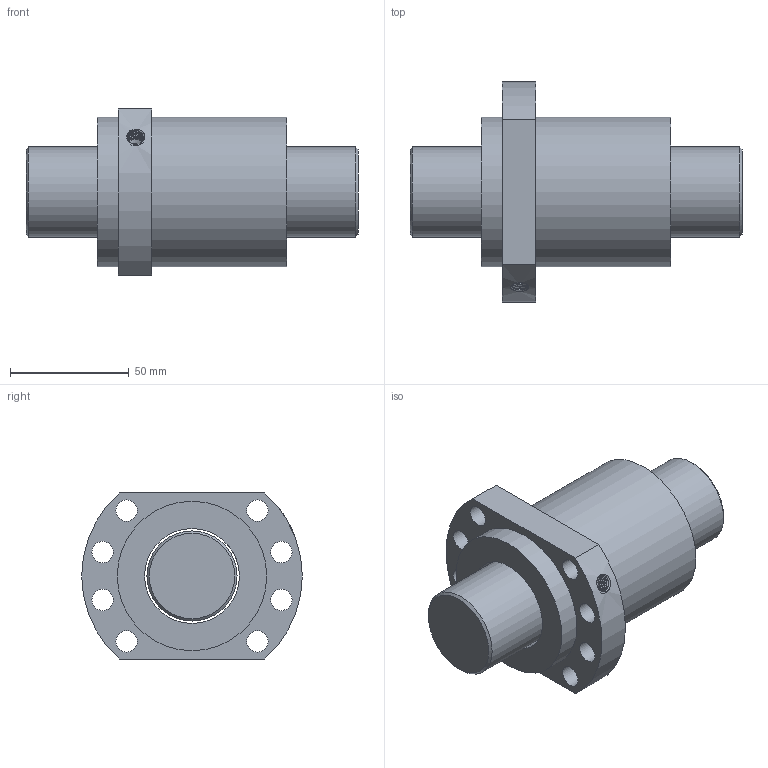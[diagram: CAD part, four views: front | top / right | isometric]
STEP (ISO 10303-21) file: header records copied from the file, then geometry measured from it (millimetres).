
FILE_DESCRIPTION(/* description */ ('Unknown','CAx-IF Rec.Pracs.---Representation and Presentation of Product Manufacturing Information (PMI)---4.0---2014-10-13','CAx-IF Rec.Pracs.---3D Tessellated Geometry---0.4---2014-09-14','2;1'),/* implementation_level */ '2;1');
FILE_NAME(/* name */ 'SFH4020-2.8',/* time_stamp */ '2020-12-08T11:31:35+08:00',/* author */ ('Unknown'),/* organization */ ('Unknown'),/* preprocessor_version */ 'ST-DEVELOPER v16.7',/* originating_system */ 'Solid Edge',/* authorisation */ 'Unknown');
FILE_SCHEMA (('AP242_MANAGED_MODEL_BASED_3D_ENGINEERING_MIM_LF { 1 0 10303 442 1 1 4 }'));
Length unit declared in the file: millimetre
Products named in the file (1): SFH4020-2.8
Bounding box: 140 x 93 x 70 mm (x, y, z)
Volume: 337734 mm3; surface area: 57672.2 mm2
Topology: 2 solids, 2 shells, 32 faces, 75 edges, 49 vertices
Faces by surface type: cylinder 18, plane 9, cone 3, bspline 2
Full cylindrical faces by diameter (mm): 4 x1, 6.917 x1, 9 x8, 38 x1, 40 x1, 63 x2
Entity records: 2736 total; most frequent: CARTESIAN_POINT 1976, DIRECTION 146, ORIENTED_EDGE 108, EDGE_LOOP 71, FACE_BOUND 71, AXIS2_PLACEMENT_3D 70, EDGE_CURVE 54, VERTEX_POINT 45
